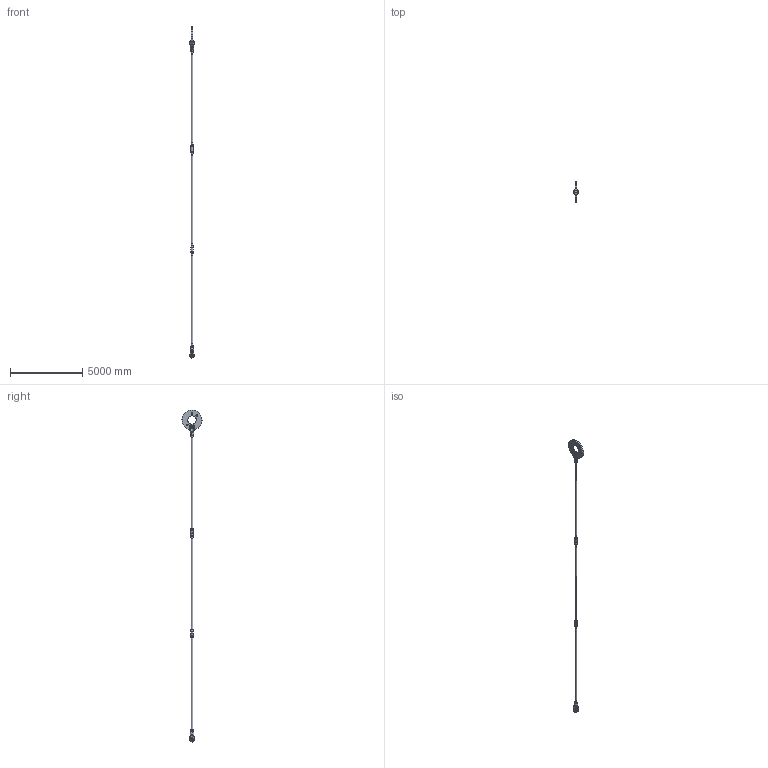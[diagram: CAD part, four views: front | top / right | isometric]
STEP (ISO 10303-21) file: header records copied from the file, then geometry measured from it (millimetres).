
FILE_DESCRIPTION(/* description */ (''),/* implementation_level */ '2;1');
FILE_NAME(/* name */ 'C:\Vault-WS\Anker\Werksnorm\Hochbau\ASDO-System\ASDO-S\für Kunden\3d\Step\M 115.stp',/* time_stamp */ '2014-06-12T09:52:25+02:00',/* author */ ('ritgen'),/* organization */ (''),/* preprocessor_version */ 'ST-DEVELOPER v15.2',/* originating_system */ 'Autodesk Inventor 2014',/* authorisation */ '');
FILE_SCHEMA (('AUTOMOTIVE_DESIGN { 1 0 10303 214 3 1 1 }'));
Length unit declared in the file: millimetre
Products named in the file (11): ASDO-005775; ASDO-014280; ASDO-014330; DIN 7991 - M20x50 - 8.8; ASDO-013949; ASDO-001739; ASDO-001370; ASDO-001469; ASDO-006499; ASDO-014071; ASDO-006498
Bounding box: 285 x 1388.68 x 22915.33 mm (x, y, z)
Volume: 402160167.8 mm3; surface area: 14640346.6 mm2
Topology: 24 solids, 24 shells, 507 faces, 1096 edges, 666 vertices
Faces by surface type: plane 156, bspline 144, cylinder 95, cone 60, torus 52
Full cylindrical faces by diameter (mm): 9 x18, 17.294 x4, 20 x4, 22.5 x4, 25 x4, 36 x4, 108.505 x12, 115 x5, 117 x7, 118 x8, 120 x7, 166 x6, 167 x4, 193.7 x2, 575 x1, 1390 x1
Entity records: 14058 total; most frequent: CARTESIAN_POINT 9700, ORIENTED_EDGE 778, DIRECTION 766, EDGE_CURVE 389, AXIS2_PLACEMENT_3D 361, EDGE_LOOP 346, VERTEX_POINT 279, ADVANCED_FACE 221
